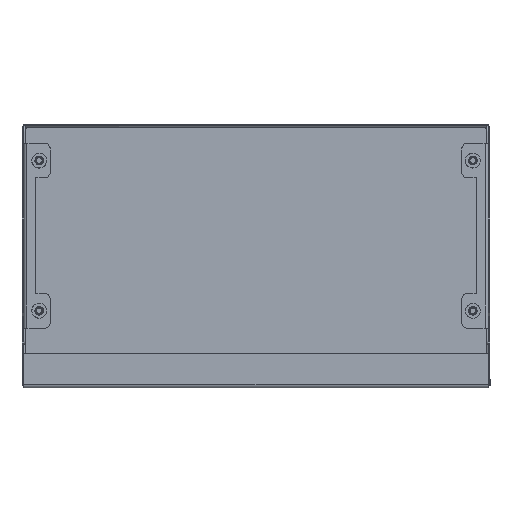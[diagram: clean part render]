
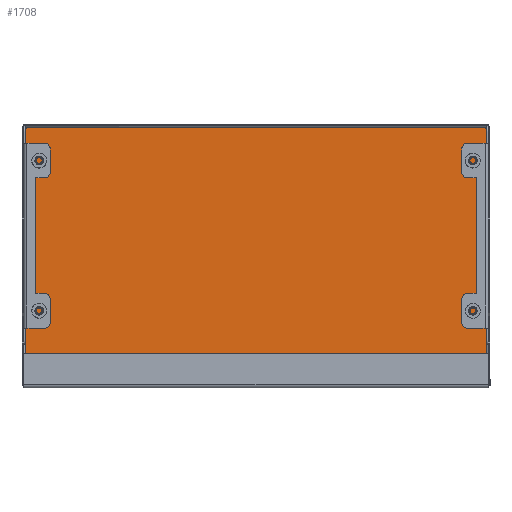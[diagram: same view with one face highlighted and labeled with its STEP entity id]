
A CAD part, front view. The second image highlights one B-rep face of the part: STEP entity #1708.
In plain terms, the highlighted planar face has unit normal (0, -1, 0).
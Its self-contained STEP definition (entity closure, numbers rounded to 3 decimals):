
#489 = VERTEX_POINT ( 'NONE', #5497 ) ;
#493 = DIRECTION ( 'NONE',  ( 0., 1., 0. ) ) ;
#565 = CARTESIAN_POINT ( 'NONE',  ( -49.617, -1.4, 49.617 ) ) ;
#682 = VERTEX_POINT ( 'NONE', #6289 ) ;
#742 = VERTEX_POINT ( 'NONE', #4086 ) ;
#819 = LINE ( 'NONE', #4761, #7586 ) ;
#1029 = CARTESIAN_POINT ( 'NONE',  ( -199.6, -1.4, -101.799 ) ) ;
#1083 = CARTESIAN_POINT ( 'NONE',  ( 202.5, -1.4, -100.299 ) ) ;
#1491 = EDGE_CURVE ( 'NONE', #2486, #3867, #7451, .T. ) ;
#1509 = DIRECTION ( 'NONE',  ( 0., 0., 1. ) ) ;
#1708 = ADVANCED_FACE ( 'NONE', ( #4977 ), #5104, .F. ) ;
#1719 = EDGE_CURVE ( 'NONE', #7760, #682, #1845, .T. ) ;
#1845 = LINE ( 'NONE', #1083, #5045 ) ;
#1928 = DIRECTION ( 'NONE',  ( -1., 0., 0. ) ) ;
#2175 = DIRECTION ( 'NONE',  ( 0., 0., -1. ) ) ;
#2221 = CARTESIAN_POINT ( 'NONE',  ( 199.042, -1.4, -99.807 ) ) ;
#2269 = ORIENTED_EDGE ( 'NONE', *, *, #1491, .F. ) ;
#2317 = DIRECTION ( 'NONE',  ( 0., -1., 0. ) ) ;
#2416 = DIRECTION ( 'NONE',  ( 0., 0., 1. ) ) ;
#2479 = DIRECTION ( 'NONE',  ( -1., 0., 0. ) ) ;
#2480 = CARTESIAN_POINT ( 'NONE',  ( 202.5, -1.4, 98.6 ) ) ;
#2486 = VERTEX_POINT ( 'NONE', #6905 ) ;
#2502 = CARTESIAN_POINT ( 'NONE',  ( -199.466, -1.4, -99.383 ) ) ;
#2636 = LINE ( 'NONE', #565, #5709 ) ;
#2659 = ORIENTED_EDGE ( 'NONE', *, *, #3319, .T. ) ;
#2725 = VECTOR ( 'NONE', #6393, 1000. ) ;
#2889 = AXIS2_PLACEMENT_3D ( 'NONE', #5619, #2317, #7585 ) ;
#2965 = EDGE_CURVE ( 'NONE', #6849, #6399, #6530, .T. ) ;
#2972 = DIRECTION ( 'NONE',  ( 0., 0., 1. ) ) ;
#3145 = CIRCLE ( 'NONE', #6396, 0.6 ) ;
#3288 = AXIS2_PLACEMENT_3D ( 'NONE', #6952, #493, #5140 ) ;
#3319 = EDGE_CURVE ( 'NONE', #3674, #489, #7207, .T. ) ;
#3413 = DIRECTION ( 'NONE',  ( 0., 1., 0. ) ) ;
#3486 = ORIENTED_EDGE ( 'NONE', *, *, #5257, .F. ) ;
#3554 = AXIS2_PLACEMENT_3D ( 'NONE', #2502, #5162, #6338 ) ;
#3608 = ORIENTED_EDGE ( 'NONE', *, *, #7849, .T. ) ;
#3674 = VERTEX_POINT ( 'NONE', #7357 ) ;
#3698 = ORIENTED_EDGE ( 'NONE', *, *, #6284, .F. ) ;
#3771 = CARTESIAN_POINT ( 'NONE',  ( -199.6, -1.4, -98.798 ) ) ;
#3867 = VERTEX_POINT ( 'NONE', #3771 ) ;
#4012 = CARTESIAN_POINT ( 'NONE',  ( 199.533, -1.4, -100.299 ) ) ;
#4013 = CARTESIAN_POINT ( 'NONE',  ( 199.466, -1.4, 98.466 ) ) ;
#4086 = CARTESIAN_POINT ( 'NONE',  ( -198.881, -1.4, 98.6 ) ) ;
#4164 = ORIENTED_EDGE ( 'NONE', *, *, #8304, .F. ) ;
#4191 = VERTEX_POINT ( 'NONE', #7974 ) ;
#4217 = VECTOR ( 'NONE', #1928, 1000. ) ;
#4568 = LINE ( 'NONE', #2480, #4217 ) ;
#4598 = DIRECTION ( 'NONE',  ( 0.707, 0., 0.707 ) ) ;
#4761 = CARTESIAN_POINT ( 'NONE',  ( 199.6, -1.4, 98.6 ) ) ;
#4840 = EDGE_CURVE ( 'NONE', #489, #742, #4568, .T. ) ;
#4977 = FACE_OUTER_BOUND ( 'NONE', #6136, .T. ) ;
#5045 = VECTOR ( 'NONE', #2479, 1000. ) ;
#5104 = PLANE ( 'NONE',  #3288 ) ;
#5140 = DIRECTION ( 'NONE',  ( 0., 0., 1. ) ) ;
#5158 = ORIENTED_EDGE ( 'NONE', *, *, #1719, .F. ) ;
#5162 = DIRECTION ( 'NONE',  ( 0., -1., 0. ) ) ;
#5257 = EDGE_CURVE ( 'NONE', #6399, #7760, #8328, .T. ) ;
#5487 = CARTESIAN_POINT ( 'NONE',  ( -199.466, -1.4, 98.466 ) ) ;
#5497 = CARTESIAN_POINT ( 'NONE',  ( 198.881, -1.4, 98.6 ) ) ;
#5619 = CARTESIAN_POINT ( 'NONE',  ( 199.466, -1.4, -99.383 ) ) ;
#5638 = VECTOR ( 'NONE', #2416, 1000. ) ;
#5678 = CARTESIAN_POINT ( 'NONE',  ( 49.617, -1.4, 49.617 ) ) ;
#5709 = VECTOR ( 'NONE', #4598, 1000. ) ;
#5769 = ORIENTED_EDGE ( 'NONE', *, *, #4840, .T. ) ;
#6136 = EDGE_LOOP ( 'NONE', ( #7287, #2659, #5769, #3608, #4164, #2269, #3698, #5158, #3486, #6521 ) ) ;
#6190 = DIRECTION ( 'NONE',  ( 0., 1., 0. ) ) ;
#6271 = AXIS2_PLACEMENT_3D ( 'NONE', #4013, #3413, #1509 ) ;
#6284 = EDGE_CURVE ( 'NONE', #682, #2486, #2636, .T. ) ;
#6289 = CARTESIAN_POINT ( 'NONE',  ( -199.533, -1.4, -100.299 ) ) ;
#6338 = DIRECTION ( 'NONE',  ( 0., 0., -1. ) ) ;
#6393 = DIRECTION ( 'NONE',  ( 0.707, 0., -0.707 ) ) ;
#6396 = AXIS2_PLACEMENT_3D ( 'NONE', #5487, #6190, #2972 ) ;
#6399 = VERTEX_POINT ( 'NONE', #2221 ) ;
#6427 = EDGE_CURVE ( 'NONE', #3674, #6849, #819, .T. ) ;
#6521 = ORIENTED_EDGE ( 'NONE', *, *, #2965, .F. ) ;
#6530 = CIRCLE ( 'NONE', #2889, 0.6 ) ;
#6727 = CARTESIAN_POINT ( 'NONE',  ( 199.6, -1.4, -98.798 ) ) ;
#6849 = VERTEX_POINT ( 'NONE', #6727 ) ;
#6905 = CARTESIAN_POINT ( 'NONE',  ( -199.042, -1.4, -99.807 ) ) ;
#6952 = CARTESIAN_POINT ( 'NONE',  ( 202.5, -1.4, 101.5 ) ) ;
#7207 = CIRCLE ( 'NONE', #6271, 0.6 ) ;
#7287 = ORIENTED_EDGE ( 'NONE', *, *, #6427, .F. ) ;
#7324 = LINE ( 'NONE', #1029, #5638 ) ;
#7357 = CARTESIAN_POINT ( 'NONE',  ( 199.6, -1.4, 97.881 ) ) ;
#7451 = CIRCLE ( 'NONE', #3554, 0.6 ) ;
#7585 = DIRECTION ( 'NONE',  ( 0., 0., -1. ) ) ;
#7586 = VECTOR ( 'NONE', #2175, 1000. ) ;
#7760 = VERTEX_POINT ( 'NONE', #4012 ) ;
#7849 = EDGE_CURVE ( 'NONE', #742, #4191, #3145, .T. ) ;
#7974 = CARTESIAN_POINT ( 'NONE',  ( -199.6, -1.4, 97.881 ) ) ;
#8304 = EDGE_CURVE ( 'NONE', #3867, #4191, #7324, .T. ) ;
#8328 = LINE ( 'NONE', #5678, #2725 ) ;
